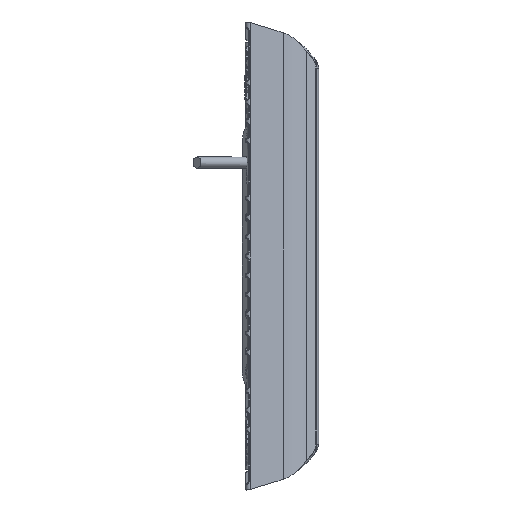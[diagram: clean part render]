
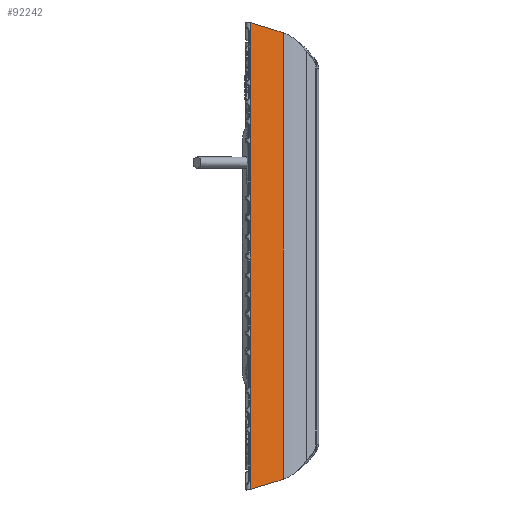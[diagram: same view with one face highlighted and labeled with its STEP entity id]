
A CAD part, top view. The second image highlights one B-rep face of the part: STEP entity #92242.
In plain terms, the highlighted planar face has unit normal (0.174, 0, 0.985).
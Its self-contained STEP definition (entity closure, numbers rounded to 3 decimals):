
#92232=AXIS2_PLACEMENT_3D('Plane Axis2P3D',#92229,#92230,#92231) ;
#38518=CARTESIAN_POINT('Vertex',(0.288,116.603,32.843)) ;
#38522=CARTESIAN_POINT('Control Point',(0.288,116.603,32.843)) ;
#38523=CARTESIAN_POINT('Control Point',(1.041,116.375,32.71)) ;
#38524=CARTESIAN_POINT('Control Point',(1.79,116.134,32.578)) ;
#38525=CARTESIAN_POINT('Control Point',(2.535,115.88,32.447)) ;
#38526=CARTESIAN_POINT('Vertex',(2.535,115.88,32.447)) ;
#41841=CARTESIAN_POINT('Vertex',(2.535,-115.88,32.447)) ;
#41845=CARTESIAN_POINT('Control Point',(0.288,-116.603,32.843)) ;
#41846=CARTESIAN_POINT('Control Point',(1.041,-116.375,32.71)) ;
#41847=CARTESIAN_POINT('Control Point',(1.79,-116.134,32.578)) ;
#41848=CARTESIAN_POINT('Control Point',(2.535,-115.88,32.447)) ;
#41849=CARTESIAN_POINT('Vertex',(0.288,-116.603,32.843)) ;
#84864=CARTESIAN_POINT('Vertex',(-14.653,-121.126,35.478)) ;
#84867=CARTESIAN_POINT('Line Origine',(-14.653,0.,35.478)) ;
#84871=CARTESIAN_POINT('Vertex',(-14.653,121.126,35.478)) ;
#92037=CARTESIAN_POINT('Line Origine',(2.535,0.,32.447)) ;
#92115=CARTESIAN_POINT('Control Point',(-14.653,-121.126,35.478)) ;
#92116=CARTESIAN_POINT('Control Point',(0.288,-116.603,32.843)) ;
#92132=CARTESIAN_POINT('Control Point',(-14.653,121.126,35.478)) ;
#92133=CARTESIAN_POINT('Control Point',(0.288,116.603,32.843)) ;
#92229=CARTESIAN_POINT('Axis2P3D Location',(-17.,-21.089,35.891)) ;
#84868=DIRECTION('Vector Direction',(0.,1.,0.)) ;
#92038=DIRECTION('Vector Direction',(0.,1.,0.)) ;
#92230=DIRECTION('Axis2P3D Direction',(0.174,0.,0.985)) ;
#92231=DIRECTION('Axis2P3D XDirection',(0.,1.,0.)) ;
#84869=VECTOR('Line Direction',#84868,1.) ;
#92039=VECTOR('Line Direction',#92038,1.) ;
#92235=ORIENTED_EDGE('',*,*,#92117,.F.) ;
#92236=ORIENTED_EDGE('',*,*,#41851,.F.) ;
#92237=ORIENTED_EDGE('',*,*,#92041,.F.) ;
#92238=ORIENTED_EDGE('',*,*,#38528,.F.) ;
#92239=ORIENTED_EDGE('',*,*,#92134,.F.) ;
#92240=ORIENTED_EDGE('',*,*,#84873,.F.) ;
#92242=ADVANCED_FACE('Body.7',(#92241),#92233,.T.) ;
#38521=B_SPLINE_CURVE_WITH_KNOTS('',3,(#38522,#38523,#38524,#38525),.UNSPECIFIED.,.F.,.U.,(4,4),(0.,3.385),.UNSPECIFIED.) ;
#41844=B_SPLINE_CURVE_WITH_KNOTS('',3,(#41845,#41846,#41847,#41848),.UNSPECIFIED.,.F.,.U.,(4,4),(0.,3.385),.UNSPECIFIED.) ;
#92114=B_SPLINE_CURVE_WITH_KNOTS('',1,(#92115,#92116),.UNSPECIFIED.,.F.,.U.,(2,2),(-10.869,4.962),.UNSPECIFIED.) ;
#92131=B_SPLINE_CURVE_WITH_KNOTS('',1,(#92132,#92133),.UNSPECIFIED.,.F.,.U.,(2,2),(-10.157,5.674),.UNSPECIFIED.) ;
#38528=EDGE_CURVE('',#38519,#38527,#38521,.T.) ;
#41851=EDGE_CURVE('',#41842,#41850,#41844,.F.) ;
#84873=EDGE_CURVE('',#84865,#84872,#84870,.T.) ;
#92041=EDGE_CURVE('',#38527,#41842,#92040,.F.) ;
#92117=EDGE_CURVE('',#41850,#84865,#92114,.F.) ;
#92134=EDGE_CURVE('',#84872,#38519,#92131,.T.) ;
#92234=EDGE_LOOP('',(#92235,#92236,#92237,#92238,#92239,#92240)) ;
#92241=FACE_OUTER_BOUND('',#92234,.T.) ;
#84870=LINE('Line',#84867,#84869) ;
#92040=LINE('Line',#92037,#92039) ;
#92233=PLANE('',#92232) ;
#38519=VERTEX_POINT('',#38518) ;
#38527=VERTEX_POINT('',#38526) ;
#41842=VERTEX_POINT('',#41841) ;
#41850=VERTEX_POINT('',#41849) ;
#84865=VERTEX_POINT('',#84864) ;
#84872=VERTEX_POINT('',#84871) ;
